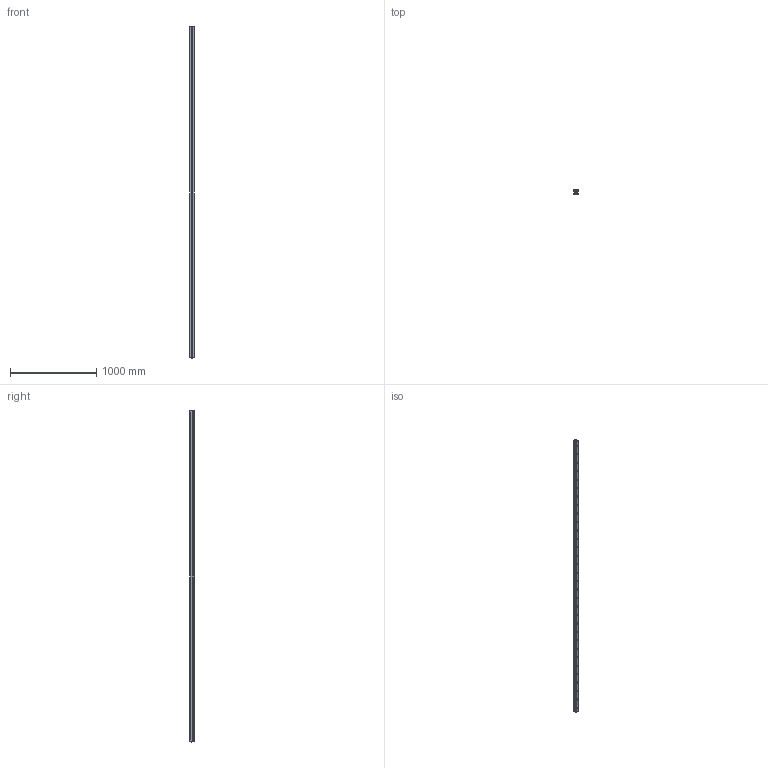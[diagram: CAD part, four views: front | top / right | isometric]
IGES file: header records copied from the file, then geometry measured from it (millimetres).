
Start section: 3D InterOp IGES (v. 2019 1.0.2), Spatial Corp. Copyright (c) 1999-2017.
Global section: file name: R1605.6_size55.igs; native system: Spatial Corp.; preprocessor: 3D InterOp GENERIC/IGES 3.0; author: Noname; organization: Noname; date: 20220629.163514; units: millimetre
Bounding box: 53 x 49.25 x 3848.51 mm (x, y, z)
Surface area: 1276459.2 mm2 (no closed solid volume)
Topology: 0 solids, 0 shells, 1468 faces, 8128 edges, 8124 vertices
Faces by surface type: extrusion 1218, revolution 250
